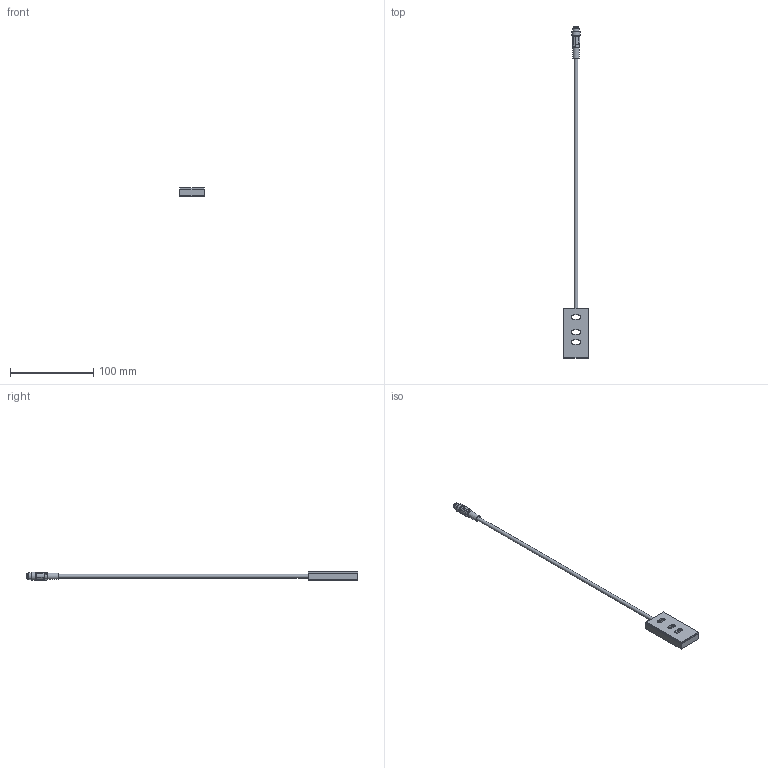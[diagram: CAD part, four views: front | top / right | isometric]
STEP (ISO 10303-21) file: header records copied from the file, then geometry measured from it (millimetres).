
FILE_DESCRIPTION (( 'STEP AP214' ), '1' );
FILE_NAME ('DAV-HEATER-DA.STEP', '2024-10-14T09:25:06', ( '' ), ( '' ), 'SwSTEP 2.0', 'SolidWorks 2024', '' );
FILE_SCHEMA (( 'AUTOMOTIVE_DESIGN' ));
Length unit declared in the file: millimetre
Products named in the file (1): DAV-HEATER-DA
Bounding box: 30 x 398.7 x 10.34 mm (x, y, z)
Volume: 23350 mm3; surface area: 11391.7 mm2
Topology: 1 solids, 1 shells, 199 faces, 439 edges, 254 vertices
Faces by surface type: plane 131, cylinder 40, cone 28
Full cylindrical faces by diameter (mm): 4.5 x1, 5.9 x1, 8 x2, 9.3 x2, 9.9 x1
Entity records: 5305 total; most frequent: CARTESIAN_POINT 975, DIRECTION 904, ORIENTED_EDGE 846, EDGE_CURVE 423, LINE 304, VECTOR 304, AXIS2_PLACEMENT_3D 300, VERTEX_POINT 249
